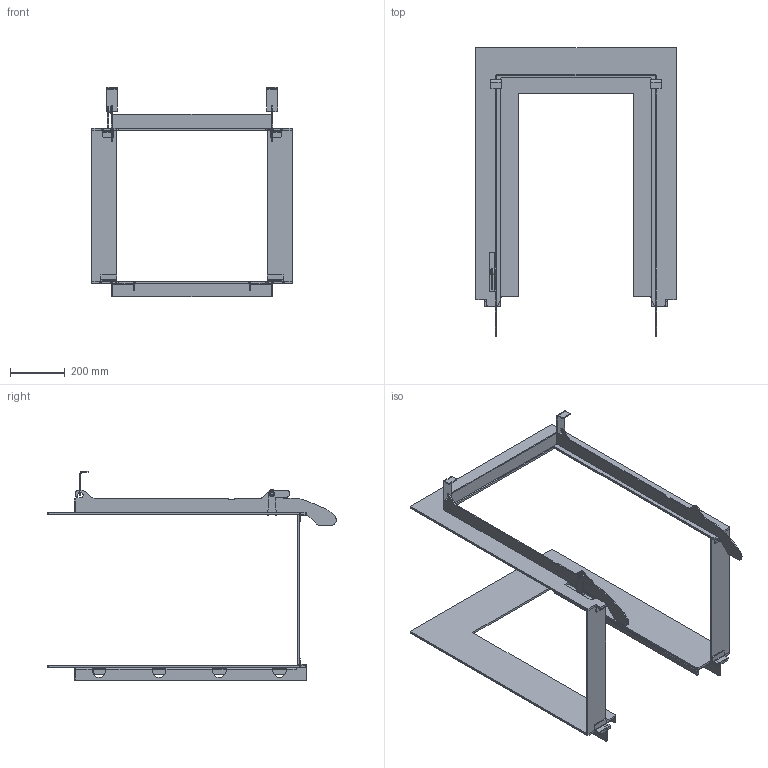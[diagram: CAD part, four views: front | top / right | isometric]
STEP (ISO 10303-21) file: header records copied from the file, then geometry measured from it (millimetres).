
FILE_DESCRIPTION(/* description */ (''),/* implementation_level */ '2;1');
FILE_NAME(/* name */ 'C:\ADSK_DM_WS\CAD_3D\03 Geraete\RIII 55x56x80\Zeichnungen\RIII_55x56x80_Einbaurahmen_geschraubt_Gen1_2017-03216.stp',/* time_stamp */ '2018-09-12T08:51:16+02:00',/* author */ ('cpi'),/* organization */ (''),/* preprocessor_version */ 'ST-DEVELOPER v17',/* originating_system */ 'Autodesk Inventor 2019',/* authorisation */ '');
FILE_SCHEMA (('AUTOMOTIVE_DESIGN { 1 0 10303 214 3 1 1 }'));
Length unit declared in the file: millimetre
Products named in the file (1): 2018-02181
Bounding box: 735 x 1055.25 x 768 mm (x, y, z)
Volume: 7126347.6 mm3; surface area: 2087560.3 mm2
Topology: 4 solids, 4 shells, 548 faces, 1551 edges, 974 vertices
Faces by surface type: plane 291, cylinder 237, bspline 16, cone 4
Full cylindrical faces by diameter (mm): 10 x1, 10.21 x2, 16 x1, 20 x2, 25 x2
Entity records: 18386 total; most frequent: CARTESIAN_POINT 3442, ORIENTED_EDGE 3102, DIRECTION 3076, EDGE_CURVE 1551, AXIS2_PLACEMENT_3D 1032, LINE 1012, VECTOR 1012, VERTEX_POINT 974
